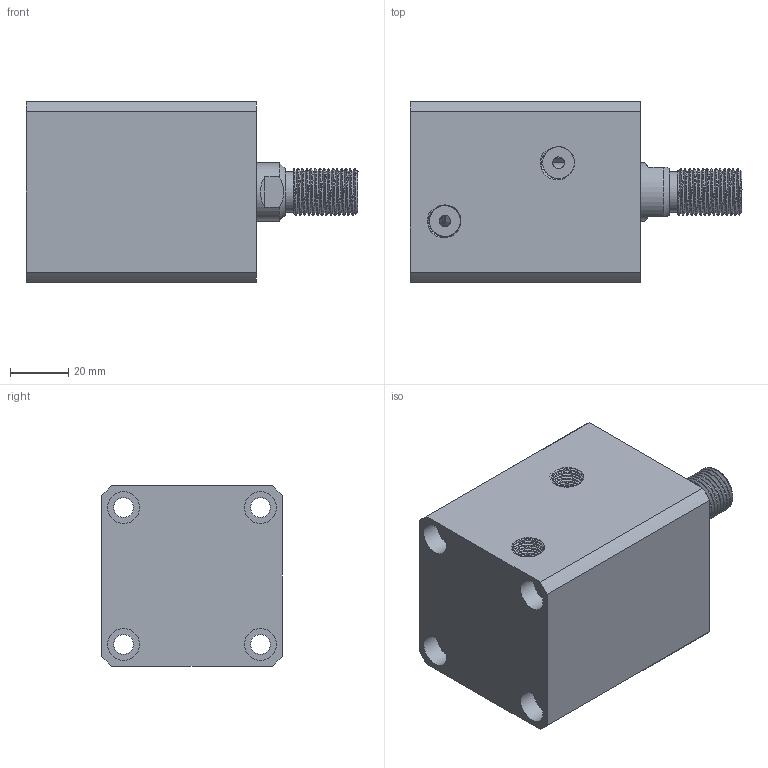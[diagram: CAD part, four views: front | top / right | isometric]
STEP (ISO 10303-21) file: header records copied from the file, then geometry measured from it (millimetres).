
FILE_DESCRIPTION(/* description */ (''),/* implementation_level */ '2;1');
FILE_NAME(/* name */ 'CHTB-sd32x25w.stp',/* time_stamp */ '2022-04-29T16:39:17+08:00',/* author */ (''),/* organization */ (''),/* preprocessor_version */ 'ST-DEVELOPER v16.7',/* originating_system */ 'SIEMENS PLM Software NX 12.0',/* authorisation */ '');
FILE_SCHEMA (('AUTOMOTIVE_DESIGN { 1 0 10303 214 3 1 1 1 }'));
Length unit declared in the file: millimetre
Products named in the file (1): CHTB-sd32x25w
Bounding box: 114 x 62 x 62 mm (x, y, z)
Volume: 278274.3 mm3; surface area: 61799.6 mm2
Topology: 3 solids, 3 shells, 516 faces, 1428 edges, 959 vertices
Faces by surface type: plane 281, extrusion 97, cylinder 67, bspline 42, cone 17, torus 12
Full cylindrical faces by diameter (mm): 3 x2, 4 x2, 6.8 x4, 11 x17, 14 x1, 20 x2, 24.5 x1, 26 x2, 32 x4, 40 x1
Entity records: 31285 total; most frequent: CARTESIAN_POINT 17368, ORIENTED_EDGE 2602, DIRECTION 1795, EDGE_CURVE 1301, VERTEX_POINT 900, VECTOR 877, LINE 780, EDGE_LOOP 597
